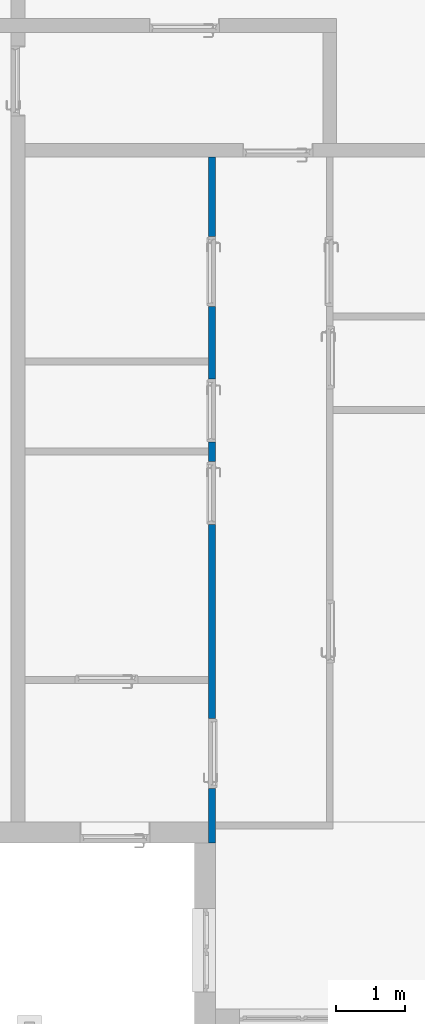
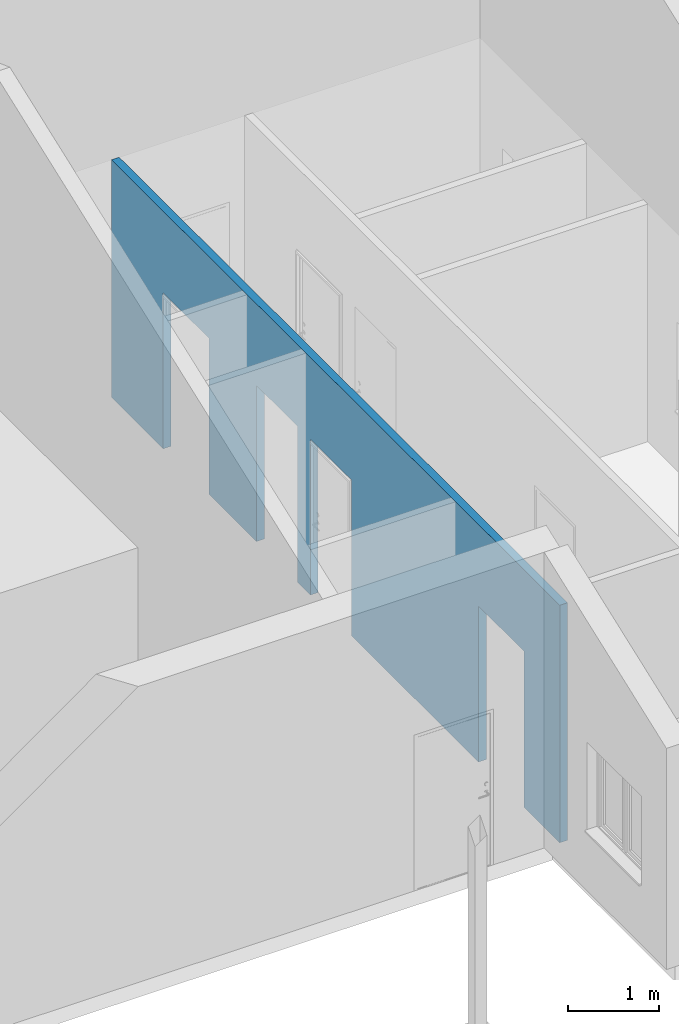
# One storey, part 10 of 23: 1 wall, 4 openings.
"""IFC2X3 building model written with IfcOpenShell, lengths in millimetres."""

import ifcopenshell
import ifcopenshell.guid

model = None  # the IFC model being written
_history = None  # IfcOwnerHistory: only IFC2X3 demands one
_inside = {}  # id of a spatial element -> (the spatial element, [elements in it])
_under = {}  # id of a project, library or spatial element -> (it, [spatial elements below it])
_declared = {}  # id of a project -> (the project, [libraries it declares])
_typed = {}  # id of a type object -> (the type object, [elements of that type])
_made_of = {}  # id of a material, layer set ... -> (it, [elements and type objects made of it])


def new_model(schema):
    """Start an empty IFC model of exactly this schema.

    Asked for "IFC4X3", IfcOpenShell would pick the latest addendum, in which some entities
    have other attributes; the version numbers below select the first issue.
    IFC2X3 requires an IfcOwnerHistory on every rooted entity: one is made here for all.
    """
    global model, _history
    if schema == "IFC4X3":
        model = ifcopenshell.file(schema_version=(4, 3, 0, 0))
    else:
        model = ifcopenshell.file(schema=schema)
    _inside.clear()
    _under.clear()
    _declared.clear()
    _typed.clear()
    _made_of.clear()
    _history = None
    if model.schema == "IFC2X3":
        org = make("IfcOrganization", Name="unknown")
        user = make(
            "IfcPersonAndOrganization",
            ThePerson=make("IfcPerson", FamilyName="unknown"),
            TheOrganization=org,
        )
        app = make(
            "IfcApplication",
            ApplicationDeveloper=org,
            Version="unknown",
            ApplicationFullName="unknown",
            ApplicationIdentifier="unknown",
        )
        _history = make(
            "IfcOwnerHistory",
            OwningUser=user,
            OwningApplication=app,
            ChangeAction="ADDED",
            CreationDate=0,
        )
    return model


def make(cls, **values):
    """One entity of the class cls with the attributes given. An attribute that is None is left unset."""
    return model.create_entity(
        cls, **{name: value for name, value in values.items() if value is not None}
    )


def entity(cls, *values):
    """Any entity or typed value of the class cls, its attributes in the order of the schema. None: left unset."""
    e = model.create_entity(cls)
    for i, value in enumerate(values):
        if value is not None:
            e[i] = value
    return e


def rooted(cls, **values):
    """An entity with a GlobalId (a new one), such as an element, a storey or a relation."""
    return make(cls, GlobalId=ifcopenshell.guid.new(), OwnerHistory=_history, **values)


def si_unit(unit_type, name, prefix=None):
    """IfcSIUnit, for example si_unit("LENGTHUNIT", "METRE", prefix="MILLI")."""
    return make("IfcSIUnit", UnitType=unit_type, Prefix=prefix, Name=name)


def converted_unit(unit_type, name, factor, base, dimensions=None, offset=None):
    """IfcConversionBasedUnit, such as the inch: factor (a typed value) times the base unit."""
    return make(
        "IfcConversionBasedUnit"
        if offset is None
        else "IfcConversionBasedUnitWithOffset",
        ConversionOffset=offset,
        Dimensions=None
        if dimensions is None
        else entity("IfcDimensionalExponents", *dimensions),
        UnitType=unit_type,
        Name=name,
        ConversionFactor=make(
            "IfcMeasureWithUnit", ValueComponent=factor, UnitComponent=base
        ),
    )


def assignment(units):
    """IfcUnitAssignment: the units of a project."""
    return None if units is None else make("IfcUnitAssignment", Units=units)


def point(xyz):
    """IfcCartesianPoint."""
    return None if xyz is None else make("IfcCartesianPoint", Coordinates=xyz)


def direction(xyz):
    """IfcDirection."""
    return None if xyz is None else make("IfcDirection", DirectionRatios=xyz)


def frame(location, z_axis=None, x_axis=None):
    """IfcAxis2Placement3D, a coordinate frame: its origin and axes. An axis left out is left unset."""
    return make(
        "IfcAxis2Placement3D",
        Location=point(location),
        Axis=direction(z_axis),
        RefDirection=direction(x_axis),
    )


def frame_2d(location, x_axis=None):
    """IfcAxis2Placement2D, a coordinate frame in the plane: its origin and x axis."""
    return make(
        "IfcAxis2Placement2D", Location=point(location), RefDirection=direction(x_axis)
    )


def origin():
    """The frame at (0, 0, 0) with its axes left unset."""
    return frame((0.0, 0.0, 0.0))


def place(relative_to, where):
    """IfcLocalPlacement: puts the frame where relative to a parent placement (None: the world)."""
    return make(
        "IfcLocalPlacement", PlacementRelTo=relative_to, RelativePlacement=where
    )


def context(
    kind, dimensions, precision=None, world=None, true_north=None, identifier=None
):
    """IfcGeometricRepresentationContext, for example the 3D "Model" context."""
    return make(
        "IfcGeometricRepresentationContext",
        ContextIdentifier=identifier,
        ContextType=kind,
        CoordinateSpaceDimension=dimensions,
        Precision=precision,
        WorldCoordinateSystem=world,
        TrueNorth=true_north,
    )


def subcontext(parent, identifier, kind, view, scale=None):
    """IfcGeometricRepresentationSubContext, for example "Body" below "Model"."""
    return make(
        "IfcGeometricRepresentationSubContext",
        ContextIdentifier=identifier,
        ContextType=kind,
        ParentContext=parent,
        TargetScale=scale,
        TargetView=view,
    )


def project(units=None, contexts=None):
    """IfcProject with its units and contexts."""
    return rooted(
        "IfcProject",
        Name="project",
        RepresentationContexts=contexts,
        UnitsInContext=assignment(units),
    )


def spatial(cls, under=None, at=None, **own):
    """A site, building, storey or space (cls), placed at a placement, below another one or the project."""
    s = rooted(cls, ObjectPlacement=at, **own)
    if under is not None:
        _under.setdefault(under.id(), (under, []))[1].append(s)
    return s


def profile(cls, at=None, kind="AREA", **sizes):
    """A parametric profile (cls). Its sizes go by their IFC names, for example OverallWidth=200.0."""
    return make(cls, ProfileType=kind, Position=at, **sizes)


def rectangle(**sizes):
    """IfcRectangleProfileDef."""
    return profile("IfcRectangleProfileDef", **sizes)


def extrude(swept, where, along, depth):
    """IfcExtrudedAreaSolid: the profile swept, set in the frame where, extruded along a direction by depth."""
    return make(
        "IfcExtrudedAreaSolid",
        SweptArea=swept,
        Position=where,
        ExtrudedDirection=direction(along),
        Depth=depth,
    )


def shape(context_of_items, identifier, shape_type, items):
    """IfcShapeRepresentation: the items that make up one representation, for example the "Body"."""
    return make(
        "IfcShapeRepresentation",
        ContextOfItems=context_of_items,
        RepresentationIdentifier=identifier,
        RepresentationType=shape_type,
        Items=items,
    )


def material(Name=None, Category=None):
    """IfcMaterial."""
    return make("IfcMaterial", Name=Name, Category=Category)


def layer(
    of_material, thickness, ventilated=None, Name=None, Category=None, Priority=None
):
    """IfcMaterialLayer: one layer of a wall or slab, of a material (None: an air gap)."""
    return make(
        "IfcMaterialLayer",
        Material=of_material,
        LayerThickness=thickness,
        IsVentilated=ventilated,
        Name=Name,
        Category=Category,
        Priority=Priority,
    )


def layer_set(layers, Name=None):
    """IfcMaterialLayerSet."""
    return make("IfcMaterialLayerSet", MaterialLayers=layers, LayerSetName=Name)


def layer_usage(for_layer_set, set_direction, sense, offset, extent=None):
    """IfcMaterialLayerSetUsage: how a layer set lies in its element."""
    return make(
        "IfcMaterialLayerSetUsage",
        ForLayerSet=for_layer_set,
        LayerSetDirection=set_direction,
        DirectionSense=sense,
        OffsetFromReferenceLine=offset,
        ReferenceExtent=extent,
    )


def made_of(thing, what):
    """Note that an element or type object is made of a material, layer set ...; save() writes the relation."""
    if what is not None:
        _made_of.setdefault(what.id(), (what, []))[1].append(thing)
    return thing


def type_object(cls, material=None, **own):
    """A type object (cls), such as IfcWallType, which elements share."""
    return made_of(rooted(cls, **own), material)


def element(
    cls,
    number,
    at=None,
    inside=None,
    cuts=None,
    type_object=None,
    material=None,
    context=None,
    identifier="Body",
    shape_type=None,
    held_by="IfcProductDefinitionShape",
    body=None,
    shapes=None,
    **own,
):
    """One element of the class cls, such as IfcWall. Its Tag is "e" and its number.

    at: its placement. inside: the storey or other place that contains it. cuts: it is an
    opening in that element (IfcRelVoidsElement). A single representation is given by context,
    identifier, shape_type and body (its items); several are given by shapes. held_by: the class
    of the entity that holds the representations. save() writes the other relations.
    """
    e = rooted(cls, Tag="e%d" % number, ObjectPlacement=at, **own)
    if body is not None:
        shapes = [shape(context, identifier, shape_type, body)]
    if shapes is not None:
        e.Representation = make(held_by, Representations=shapes)
    if inside is not None:
        _inside.setdefault(inside.id(), (inside, []))[1].append(e)
    if cuts is not None:
        rooted(
            "IfcRelVoidsElement", RelatingBuildingElement=cuts, RelatedOpeningElement=e
        )
    if type_object is not None:
        _typed.setdefault(type_object.id(), (type_object, []))[1].append(e)
    return made_of(e, material)


def aggregate(whole, parts):
    """IfcRelAggregates: a whole, such as a stair, and the parts it consists of."""
    return rooted("IfcRelAggregates", RelatingObject=whole, RelatedObjects=parts)


def save(model, path):
    """Write the relations noted so far, then the file.

    IfcRelAggregates (storeys below a building ...), IfcRelContainedInSpatialStructure (elements
    in a storey), IfcRelDefinesByType, IfcRelAssociatesMaterial and IfcRelDeclares: one each for
    every whole, place, type object, material and project.
    """
    for whole, parts in _under.values():
        aggregate(whole, parts)
    for where, things in _inside.values():
        rooted(
            "IfcRelContainedInSpatialStructure",
            RelatedElements=things,
            RelatingStructure=where,
        )
    for kind, things in _typed.values():
        rooted("IfcRelDefinesByType", RelatedObjects=things, RelatingType=kind)
    for what, things in _made_of.values():
        rooted("IfcRelAssociatesMaterial", RelatedObjects=things, RelatingMaterial=what)
    for by, libraries in _declared.values():
        rooted("IfcRelDeclares", RelatingContext=by, RelatedDefinitions=libraries)
    model.write(path)


model = new_model("IFC2X3")

# Units and contexts
model_context = context("Model", 3, precision=0.01, world=origin(), true_north=direction((6.123031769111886e-17, 1.0)))
body_context = subcontext(model_context, "Body", "Model", "MODEL_VIEW")
ifc_project = project(units=[si_unit("LENGTHUNIT", "METRE", prefix="MILLI"), converted_unit("PLANEANGLEUNIT", "DEGREE", entity("IfcPlaneAngleMeasure", 0.017453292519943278), si_unit("PLANEANGLEUNIT", "RADIAN"), dimensions=[0, 0, 0, 0, 0, 0, 0]), si_unit("AREAUNIT", "SQUARE_METRE")], contexts=[model_context])

# Site, building, storey
site_placement = place(None, frame((7776.576483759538, 118.3519876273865, 0.0)))
site = spatial("IfcSite", under=ifc_project, at=site_placement, Name="Default", CompositionType="ELEMENT")
building_placement = place(site_placement, origin())
building = spatial("IfcBuilding", under=site, at=building_placement, Name="Bygning (endres i Project Information)", CompositionType="ELEMENT")
storey_placement = place(building_placement, frame((0.0, 0.0, 19000.0)))
storey = spatial("IfcBuildingStorey", under=building, at=storey_placement, Name="Plan 01", CompositionType="ELEMENT", Elevation=19000.0)

# Wall, openings
ifc_material = material(Name="Default Wall")
ifc_layer = layer(ifc_material, 100.0)
ifc_layer_set = layer_set([ifc_layer], Name="Basic Wall:Generic - 100mm")
ifc_layer_usage = layer_usage(ifc_layer_set, "AXIS2", "NEGATIVE", 50.0)
wall_type = type_object("IfcWallType", Name="Basic Wall:Generic - 100mm", PredefinedType="STANDARD", material=ifc_layer_set)
wall_placement = place(storey_placement, frame((34924.001374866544, 19397.757305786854, 0.0), z_axis=(0.0, 0.0, 1.0), x_axis=(0.0, 1.0, 0.0)))
wall = element("IfcWallStandardCase", 1, at=wall_placement, inside=storey, type_object=wall_type, material=ifc_layer_usage, Name="Basic Wall:Generic - 100mm", ObjectType="Basic Wall:Generic - 100mm", context=body_context, shape_type="SweptSolid", body=[
    extrude(rectangle(XDim=9899.999999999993, YDim=100.00000000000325, at=frame_2d((4949.999999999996, -6.465938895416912e-13), x_axis=(-1.0, 0.0))), origin(), (0.0, 0.0, 1.0), 3200.0),
])
opening_1_placement = place(wall_placement, frame((785.0, -50.0, 0.0)))
element("IfcOpeningElement", 2, at=opening_1_placement, cuts=wall, Name="Single Door Simple:986 x 2089 mm - M10 x M21:1", ObjectType="Opening", context=body_context, shape_type="SweptSolid", body=[
    extrude(rectangle(XDim=2100.9999999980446, YDim=1009.9999999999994, at=frame_2d((1050.4999999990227, 504.9999999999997), x_axis=(1.0, 0.0))), frame((0.0, 0.0, 0.0), z_axis=(0.0, 1.0, 0.0), x_axis=(0.0, 0.0, 1.0)), (0.0, 0.0, 1.0), 100.0),
])
opening_2_placement = place(wall_placement, frame((5505.0, 50.0, 0.0)))
element("IfcOpeningElement", 3, at=opening_2_placement, cuts=wall, Name="Single Door Simple:886 x 2089 mm - M9 x M21:1", ObjectType="Opening", context=body_context, shape_type="SweptSolid", body=[
    extrude(rectangle(XDim=2100.9999999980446, YDim=910.0, at=frame_2d((1050.4999999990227, 455.0), x_axis=(1.0, 0.0))), frame((0.0, 0.0, 0.0), z_axis=(0.0, -1.0, 0.0), x_axis=(0.0, 0.0, 1.0)), (0.0, 0.0, 1.0), 100.0),
])
opening_3_placement = place(wall_placement, frame((8755.0, 50.0, 0.0)))
element("IfcOpeningElement", 4, at=opening_3_placement, cuts=wall, Name="Single Door Simple:986 x 2089 mm - M10 x M21:1", ObjectType="Opening", context=body_context, shape_type="SweptSolid", body=[
    extrude(rectangle(XDim=2100.9999999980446, YDim=1009.9999999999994, at=frame_2d((1050.4999999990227, 504.9999999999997), x_axis=(1.0, 0.0))), frame((0.0, 0.0, 0.0), z_axis=(0.0, -1.0, 0.0), x_axis=(0.0, 0.0, 1.0)), (0.0, 0.0, 1.0), 100.0),
])
opening_4_placement = place(wall_placement, frame((6695.0, 50.0, 0.0)))
element("IfcOpeningElement", 5, at=opening_4_placement, cuts=wall, Name="Single Door Simple:886 x 2089 mm - M9 x M21:1", ObjectType="Opening", context=body_context, shape_type="SweptSolid", body=[
    extrude(rectangle(XDim=2100.9999999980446, YDim=910.0, at=frame_2d((1050.4999999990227, 455.0), x_axis=(1.0, 0.0))), frame((0.0, 0.0, 0.0), z_axis=(0.0, -1.0, 0.0), x_axis=(0.0, 0.0, 1.0)), (0.0, 0.0, 1.0), 100.0),
])

save(model, "model.ifc")
